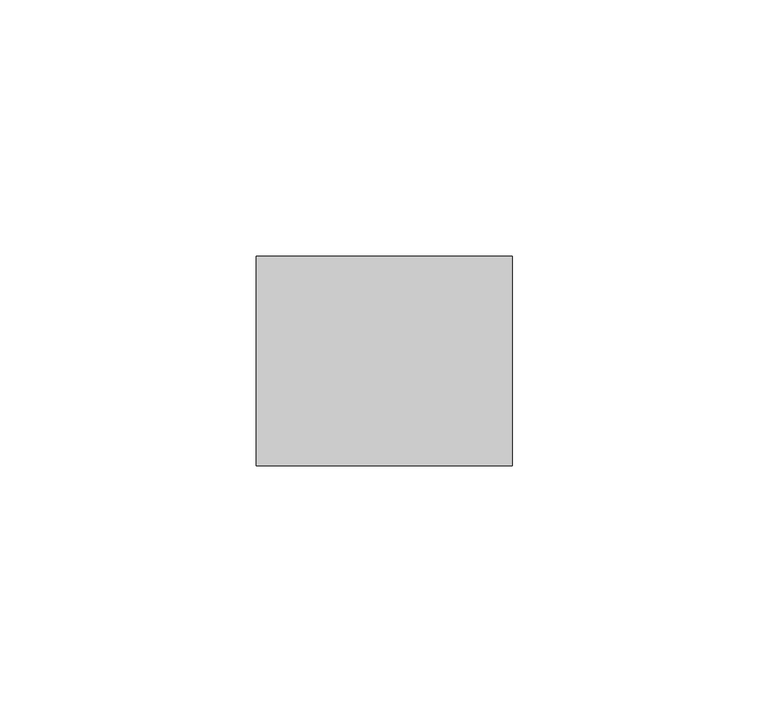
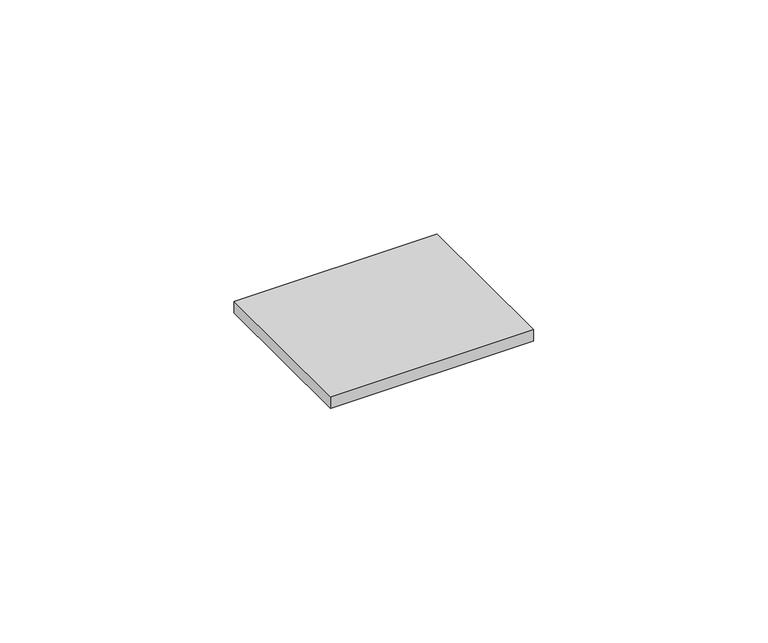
"""IFC4 building model written with IfcOpenShell, lengths in millimetres: proxy geometry, 4182K_Accessory-Basorfix : Basorfix 4182K GC."""

from ifc_helpers import new_model, si_unit, origin, origin_with_axes, place, context, project, spatial, polyline, outline, extrude, source, transform, mapped, element, save


def generic_models_f47e3d8b(model_context):
    return source(origin(), model_context, "Body", "SweptSolid", [
        extrude(outline(polyline([(25.0, -20.4842733), (-25.0, -20.4842733), (-25.0, 20.4842733), (25.0, 20.4842733), (25.0, -20.4842733)])), origin_with_axes(), (0.0, 0.0, 1.0), 3.0),
    ])


if __name__ == "__main__":
    model = new_model("IFC4")
    model_context = context("Model", 3, world=origin())
    ifc_project = project(units=[si_unit("LENGTHUNIT", "METRE", prefix="MILLI")], contexts=[model_context])
    site = spatial("IfcSite", under=ifc_project)
    building = spatial("IfcBuilding", under=site)
    placement = place(None, origin())
    generic_models_shape = generic_models_f47e3d8b(model_context)
    element("IfcBuildingElementProxy", 1, Name="4182K_Accessory-Basorfix : Basorfix 4182K GC", ObjectType="4182K_Accessory-Basorfix : Basorfix 4182K GC", at=placement, inside=building, context=model_context, shape_type="MappedRepresentation", body=[
        mapped(generic_models_shape, transform((0.0, 0.0, 0.0), x_axis=(1.0, 0.0, 0.0), y_axis=(0.0, 1.0, 0.0), z_axis=(0.0, 0.0, 1.0))),
    ])
    save(model, "model.ifc")
